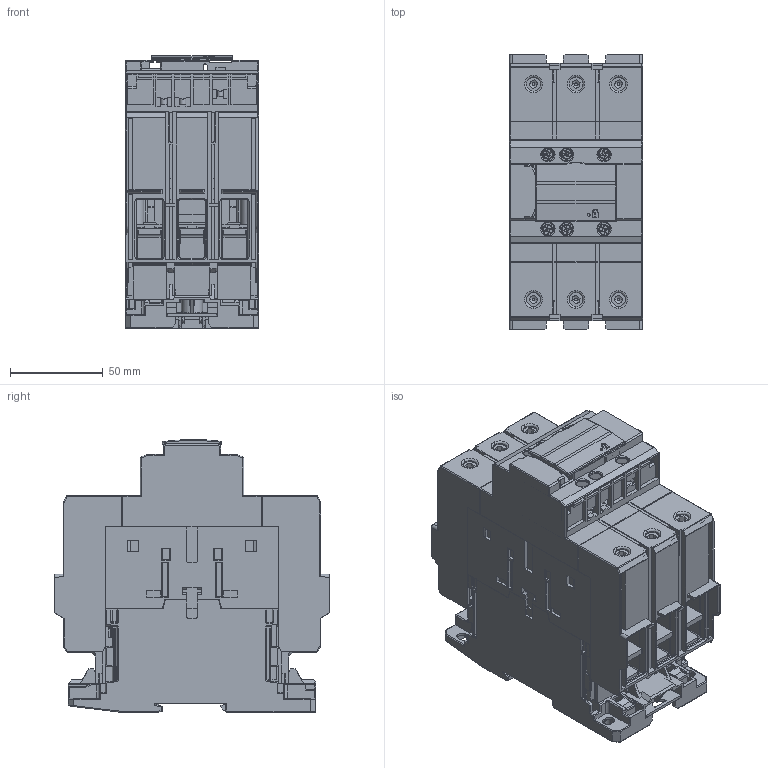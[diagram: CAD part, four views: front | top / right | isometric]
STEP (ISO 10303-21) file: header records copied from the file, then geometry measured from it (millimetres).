
FILE_DESCRIPTION (( 'STEP AP203' ), '1' );
FILE_NAME ('CWB95...125.STEP', '2020-06-29T13:38:09', ( 'Usuário do Windows' ), ( 'WEG Equipamentos Elétricos' ), 'SwSTEP 2.0', 'SolidWorks 2018', '' );
FILE_SCHEMA (( 'CONFIG_CONTROL_DESIGN' ));
Length unit declared in the file: millimetre
Products named in the file (2): CWB95...125
Bounding box: 71.8 x 148.6 x 146.95 mm (x, y, z)
Volume: 858106.5 mm3; surface area: 308300.7 mm2
Topology: 45 solids, 70 shells, 6379 faces, 17263 edges, 10982 vertices
Faces by surface type: plane 4164, cylinder 1512, torus 223, bspline 182, cone 175, sphere 123
Entity records: 204971 total; most frequent: CARTESIAN_POINT 45647, ORIENTED_EDGE 34264, DIRECTION 31659, EDGE_CURVE 17132, LINE 12731, VECTOR 12731, VERTEX_POINT 10966, AXIS2_PLACEMENT_3D 9464
